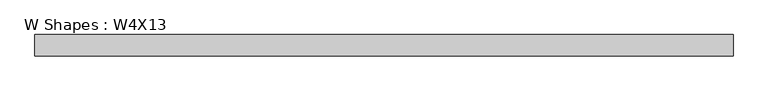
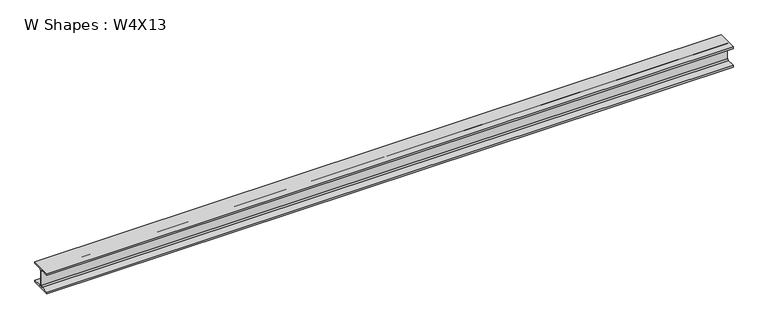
"""IFC4 building model written with IfcOpenShell, lengths in millimetres: beam geometry, W Shapes : W4X13."""

from ifc_helpers import new_model, si_unit, point, frame, frame_2d, origin, place, context, project, spatial, polyline, circle_curve, trimmed, segment, composite_curve, outline, extrude, source, transform, mapped, element, save


def w_shapes_w4x13_d9203223(model_context):
    return source(origin(), model_context, "Body", "SweptSolid", [
        extrude(outline(composite_curve([segment(polyline([(51.562, -44.069), (51.562, -52.832), (-51.562, -52.832), (-51.562, -44.069), (-9.906, -44.069)]), True, "CONTINUOUS"), segment(trimmed(circle_curve(frame_2d((-9.906, -37.719)), 6.35), [point((-9.906, -44.069))], [point((-3.556, -37.719))], True, "CARTESIAN"), True, "CONTINUOUS"), segment(polyline([(-3.556, -37.719), (-3.556, 37.719)]), True, "CONTINUOUS"), segment(trimmed(circle_curve(frame_2d((-9.906, 37.719)), 6.35), [point((-3.556, 37.719))], [point((-9.906, 44.069))], True, "CARTESIAN"), True, "CONTINUOUS"), segment(polyline([(-9.906, 44.069), (-51.562, 44.069), (-51.562, 52.832), (51.562, 52.832), (51.562, 44.069), (9.906, 44.069)]), True, "CONTINUOUS"), segment(trimmed(circle_curve(frame_2d((9.906, 37.719)), 6.35), [point((9.906, 44.069))], [point((3.556, 37.719))], True, "CARTESIAN"), True, "CONTINUOUS"), segment(polyline([(3.556, 37.719), (3.556, -37.719)]), True, "CONTINUOUS"), segment(trimmed(circle_curve(frame_2d((9.906, -37.719)), 6.35), [point((3.556, -37.719))], [point((9.906, -44.069))], True, "CARTESIAN"), True, "CONTINUOUS"), segment(polyline([(9.906, -44.069), (51.562, -44.069)]), True, "CONTINUOUS")], self_intersect=False)), frame((-1633.22, 0.0, 0.0), z_axis=(1.0, 0.0, 0.0), x_axis=(0.0, 1.0, 0.0)), (0.0, 0.0, 1.0), 3398.393),
    ])


if __name__ == "__main__":
    model = new_model("IFC4")
    model_context = context("Model", 3, world=origin())
    ifc_project = project(units=[si_unit("LENGTHUNIT", "METRE", prefix="MILLI")], contexts=[model_context])
    site = spatial("IfcSite", under=ifc_project)
    building = spatial("IfcBuilding", under=site)
    placement = place(None, origin())
    w_shapes_w4x13_shape = w_shapes_w4x13_d9203223(model_context)
    element("IfcBeam", 1, ObjectType="W Shapes : W4X13", at=placement, inside=building, context=model_context, shape_type="MappedRepresentation", body=[
        mapped(w_shapes_w4x13_shape, transform((0.0, 0.0, 0.0), x_axis=(1.0, 0.0, 0.0), y_axis=(0.0, 1.0, 0.0), z_axis=(0.0, 0.0, 1.0))),
    ])
    save(model, "model.ifc")
